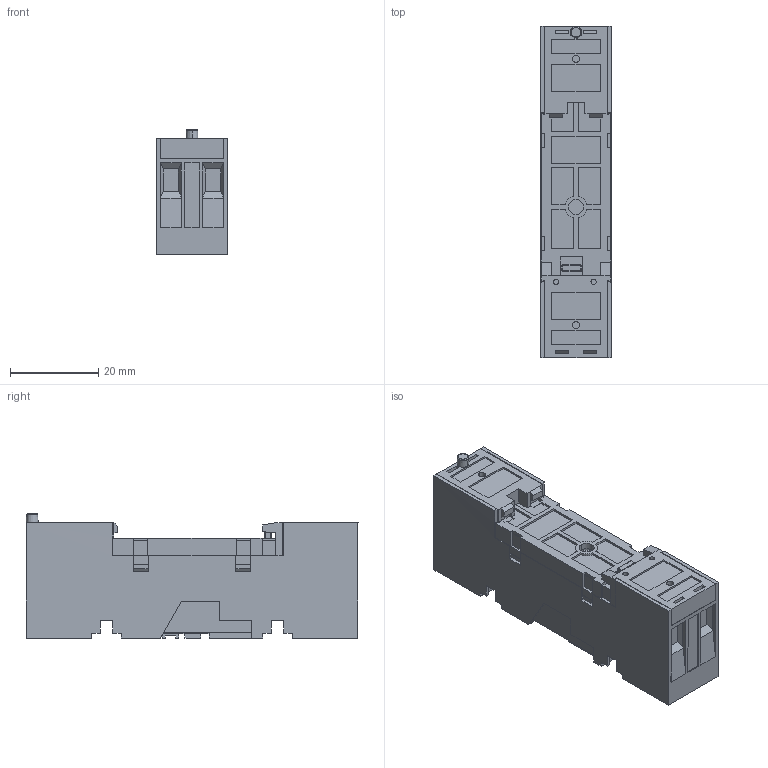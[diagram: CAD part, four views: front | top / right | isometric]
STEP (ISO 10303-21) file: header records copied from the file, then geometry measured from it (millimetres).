
FILE_DESCRIPTION (( 'STEP AP214' ), '1' );
FILE_NAME ('S10.STEP', '2013-11-14T10:17:38', ( '' ), ( '' ), 'SwSTEP 2.0', 'SolidWorks 2013', '' );
FILE_SCHEMA (( 'AUTOMOTIVE_DESIGN' ));
Length unit declared in the file: millimetre
Products named in the file (1): S10
Bounding box: 16 x 75.3 x 28.2 mm (x, y, z)
Volume: 26100.8 mm3; surface area: 9664.9 mm2
Topology: 1 solids, 1 shells, 642 faces, 1767 edges, 1150 vertices
Faces by surface type: plane 588, cylinder 46, sphere 4, torus 2, cone 2
Entity records: 27085 total; most frequent: CARTESIAN_POINT 3574, ORIENTED_EDGE 3526, DIRECTION 3147, EDGE_CURVE 1763, VECTOR 1653, LINE 1653, VERTEX_POINT 1150, AXIS2_PLACEMENT_3D 747
